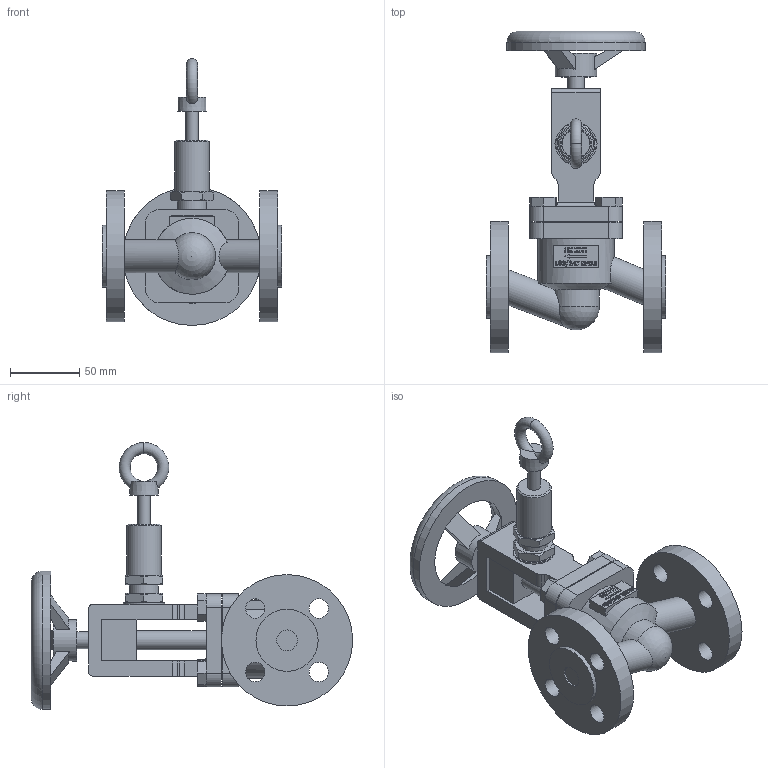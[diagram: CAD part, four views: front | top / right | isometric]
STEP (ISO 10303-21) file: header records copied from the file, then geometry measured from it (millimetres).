
FILE_DESCRIPTION(/* description */ (''),/* implementation_level */ '2;1');
FILE_NAME(/* name */ '100-247M-DN15-PN16.stp',/* time_stamp */ '2024-07-09T07:56:35+02:00',/* author */ ('roger.thijssen'),/* organization */ (''),/* preprocessor_version */ 'ST-DEVELOPER v20',/* originating_system */ 'Autodesk Inventor 2024',/* authorisation */ '');
FILE_SCHEMA (('AUTOMOTIVE_DESIGN { 1 0 10303 214 3 1 1 }'));
Length unit declared in the file: millimetre
Products named in the file (1): 100-247M-DN15-PN16
Bounding box: 130 x 232.5 x 193 mm (x, y, z)
Volume: 632515.7 mm3; surface area: 119676.4 mm2
Topology: 1 solids, 1 shells, 409 faces, 1080 edges, 708 vertices
Faces by surface type: plane 248, cylinder 72, bspline 58, cone 27, torus 3, sphere 1
Full cylindrical faces by diameter (mm): 9 x1, 12 x1, 14 x9, 15 x2, 21 x1, 24 x2, 25 x1, 30 x2, 45 x2, 50 x1, 55 x1, 95 x2, 100 x1
Entity records: 13735 total; most frequent: CARTESIAN_POINT 3439, ORIENTED_EDGE 2158, DIRECTION 1794, EDGE_CURVE 1079, VERTEX_POINT 708, LINE 696, VECTOR 696, AXIS2_PLACEMENT_3D 549
